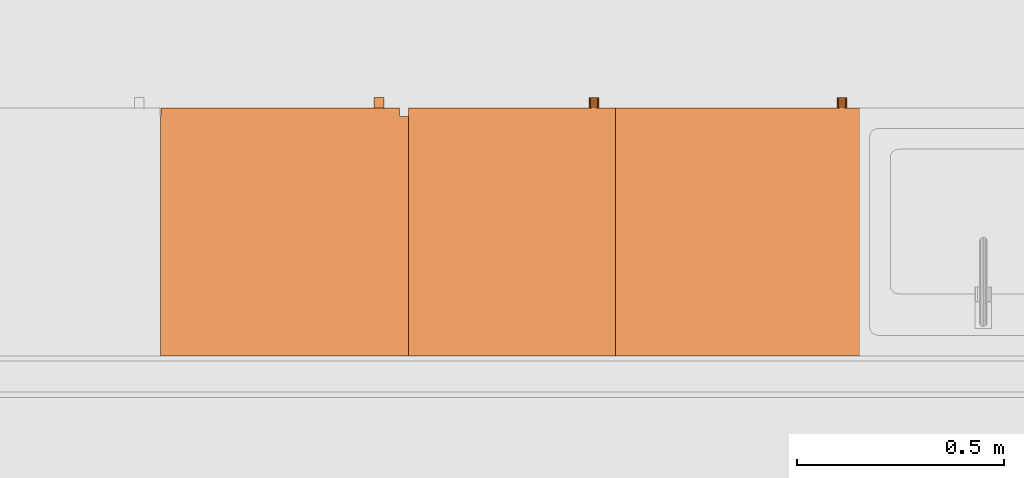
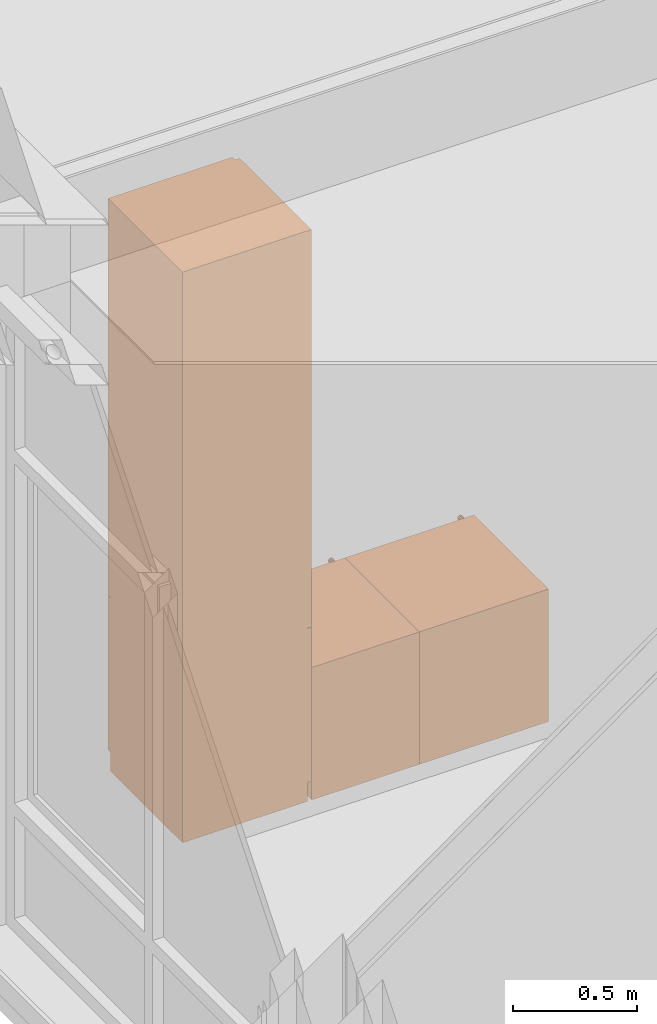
# One storey, part 101 of 167: 3 proxies.
"""IFC2X3 building model written with IfcOpenShell, lengths in millimetres."""

from ifc_helpers import new_model, entity, si_unit, converted_unit, derived_unit, money_unit, direction, frame, origin_with_axes, place, context, subcontext, project, spatial, faceted_brep, source, transform, mapped, type_object, type_shapes, element, save


model = new_model("IFC2X3")

# Units and contexts
model_context = context("Model", 3, precision=0.01, world=origin_with_axes(), true_north=direction((0.0, 1.0)))
plan_context = context("Plan", 3, precision=0.01, world=origin_with_axes(), true_north=direction((0.0, 1.0)))
body_context = subcontext(model_context, "Body", "Model", "MODEL_VIEW")
ifc_project = project(units=[si_unit("LENGTHUNIT", "METRE", prefix="MILLI"), si_unit("AREAUNIT", "SQUARE_METRE"), si_unit("VOLUMEUNIT", "CUBIC_METRE"), converted_unit("PLANEANGLEUNIT", "DEGREE", entity("IfcPlaneAngleMeasure", 0.0174532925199), si_unit("PLANEANGLEUNIT", "RADIAN"), dimensions=[0, 0, 0, 0, 0, 0, 0]), si_unit("SOLIDANGLEUNIT", "STERADIAN"), money_unit("EUR"), converted_unit("TIMEUNIT", "Year", entity("IfcTimeMeasure", 31556926.0), si_unit("TIMEUNIT", "SECOND"), dimensions=[0, 0, 1, 0, 0, 0, 0]), si_unit("MASSUNIT", "GRAM", prefix="KILO"), si_unit("THERMODYNAMICTEMPERATUREUNIT", "DEGREE_CELSIUS"), si_unit("LUMINOUSINTENSITYUNIT", "LUMEN"), si_unit("ENERGYUNIT", "JOULE", prefix="MEGA"), derived_unit("THERMALCONDUCTANCEUNIT", [(si_unit("POWERUNIT", "WATT"), 1), (si_unit("LENGTHUNIT", "METRE"), -1), (si_unit("THERMODYNAMICTEMPERATUREUNIT", "KELVIN"), -1)]), derived_unit("SPECIFICHEATCAPACITYUNIT", [(si_unit("ENERGYUNIT", "JOULE"), 1), (si_unit("MASSUNIT", "GRAM", prefix="KILO"), -1), (si_unit("THERMODYNAMICTEMPERATUREUNIT", "KELVIN"), -1)]), derived_unit("MASSDENSITYUNIT", [(si_unit("MASSUNIT", "GRAM", prefix="KILO"), 1), (si_unit("VOLUMEUNIT", "CUBIC_METRE"), -1)])], contexts=[model_context, plan_context])

# Site, building, storey
site_placement = place(None, origin_with_axes())
site = spatial("IfcSite", under=ifc_project, at=site_placement, Name="Site", CompositionType="ELEMENT")
building_placement = place(site_placement, origin_with_axes())
building = spatial("IfcBuilding", under=site, at=building_placement, Name="Naam gebouw", CompositionType="ELEMENT")
storey_placement = place(building_placement, origin_with_axes())
storey = spatial("IfcBuildingStorey", under=building, at=storey_placement, Name="Begane grond", CompositionType="ELEMENT", Elevation=0.0)

# Proxies
building_element_proxy_type_1 = type_object("IfcBuildingElementProxyType", Name="Kast basis 1D 24", PredefinedType="NOTDEFINED")
shared_shape_1 = source(origin_with_axes(), body_context, "Body", "Brep", [
    faceted_brep([(0.0, 20.0, 0.0), (0.0, 20.0, 90.0), (-500.0, 20.0, 90.0), (-500.0, 20.0, 0.0), (0.0, 600.0, 0.0), (0.0, 600.0, 90.0), (-500.0, 600.0, 90.0), (-500.0, 600.0, 0.0)], [[[0, 1, 2, 3]], [[4, 5, 1, 0]], [[1, 5, 6, 2]], [[3, 2, 6, 7]], [[0, 3, 7, 4]], [[7, 6, 5, 4]]]),
    faceted_brep([(0.0, 20.0, 580.0), (0.0, 20.0, 600.0), (-20.0, 20.0, 600.0), (-20.0, 20.0, 580.0), (0.0, 600.0, 580.0), (0.0, 600.0, 600.0), (-20.0, 600.0, 600.0), (-480.0, 600.0, 600.0), (-500.0, 600.0, 600.0), (-500.0, 20.0, 600.0), (-480.0, 20.0, 600.0), (-480.0, 20.0, 580.0), (-500.0, 20.0, 580.0), (-500.0, 600.0, 580.0), (-480.0, 600.0, 580.0), (-20.0, 600.0, 580.0)], [[[0, 1, 2, 3]], [[4, 5, 1, 0]], [[1, 5, 6, 7, 8, 9, 10, 2]], [[3, 2, 10, 11]], [[0, 3, 11, 12, 13, 14, 15, 4]], [[15, 6, 5, 4]], [[14, 7, 6, 15]], [[13, 8, 7, 14]], [[12, 9, 8, 13]], [[11, 10, 9, 12]]]),
    faceted_brep([(0.0, 20.0, 90.0), (0.0, 20.0, 110.0), (-20.0, 20.0, 110.0), (-20.0, 20.0, 90.0), (0.0, 600.0, 90.0), (0.0, 600.0, 110.0), (-20.0, 600.0, 110.0), (-480.0, 600.0, 110.0), (-500.0, 600.0, 110.0), (-500.0, 20.0, 110.0), (-480.0, 20.0, 110.0), (-480.0, 20.0, 90.0), (-500.0, 20.0, 90.0), (-500.0, 600.0, 90.0), (-480.0, 600.0, 90.0), (-20.0, 600.0, 90.0)], [[[0, 1, 2, 3]], [[4, 5, 1, 0]], [[1, 5, 6, 7, 8, 9, 10, 2]], [[3, 2, 10, 11]], [[0, 3, 11, 12, 13, 14, 15, 4]], [[15, 6, 5, 4]], [[14, 7, 6, 15]], [[13, 8, 7, 14]], [[12, 9, 8, 13]], [[11, 10, 9, 12]]]),
    faceted_brep([(0.0, 20.0, 110.0), (0.0, 20.0, 580.0), (-20.0, 20.0, 580.0), (-20.0, 20.0, 110.0), (0.0, 600.0, 110.0), (0.0, 600.0, 580.0), (-500.0, 600.0, 580.0), (-500.0, 20.0, 580.0), (-480.0, 20.0, 580.0), (-480.0, 580.0, 580.0), (-20.0, 580.0, 580.0), (-20.0, 580.0, 110.0), (-480.0, 580.0, 110.0), (-480.0, 20.0, 110.0), (-500.0, 20.0, 110.0), (-500.0, 600.0, 110.0)], [[[0, 1, 2, 3]], [[4, 5, 1, 0]], [[1, 5, 6, 7, 8, 9, 10, 2]], [[3, 2, 10, 11]], [[0, 3, 11, 12, 13, 14, 15, 4]], [[15, 6, 5, 4]], [[14, 7, 6, 15]], [[13, 8, 7, 14]], [[12, 9, 8, 13]], [[11, 10, 9, 12]]]),
    faceted_brep([(-480.0, 20.0, 325.0), (-480.0, 20.0, 345.0), (-480.0, 580.0, 345.0), (-480.0, 580.0, 325.0), (-20.0, 20.0, 325.0), (-20.0, 20.0, 345.0), (-20.0, 580.0, 345.0), (-20.0, 580.0, 325.0)], [[[0, 1, 2, 3]], [[4, 5, 1, 0]], [[1, 5, 6, 2]], [[3, 2, 6, 7]], [[0, 3, 7, 4]], [[7, 6, 5, 4]]]),
    faceted_brep([(0.0, 0.0, 600.0), (0.0, 0.0, 650.0), (-500.0, 0.0, 650.0), (-500.0, 0.0, 600.0), (0.0, 600.0, 600.0), (0.0, 600.0, 650.0), (-500.0, 600.0, 650.0), (-500.0, 600.0, 600.0)], [[[0, 1, 2, 3]], [[4, 5, 1, 0]], [[1, 5, 6, 2]], [[3, 2, 6, 7]], [[0, 3, 7, 4]], [[7, 6, 5, 4]]]),
    faceted_brep([(-1.5, 20.0, 91.5), (-1.5, 0.0, 91.5), (-498.5, 0.0, 91.5), (-498.5, 20.0, 91.5), (-1.5, 20.0, 598.5), (-1.5, 0.0, 598.5), (-498.5, 0.0, 598.5), (-498.5, 20.0, 598.5)], [[[0, 1, 2, 3]], [[4, 5, 1, 0]], [[1, 5, 6, 2]], [[3, 2, 6, 7]], [[0, 3, 7, 4]], [[7, 6, 5, 4]]]),
    faceted_brep([(-459.58655439, 0.0, 636.907798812), (-460.5, 0.0, 641.5), (-459.58655439, 0.0, 646.092201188), (-456.985281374, 0.0, 649.985281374), (-453.092201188, 0.0, 652.58655439), (-448.5, 0.0, 653.5), (-443.907798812, 0.0, 652.58655439), (-440.014718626, 0.0, 649.985281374), (-437.41344561, 0.0, 646.092201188), (-436.5, 0.0, 641.5), (-437.41344561, 0.0, 636.907798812), (-440.014718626, 0.0, 633.014718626), (-443.907798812, 0.0, 630.41344561), (-448.5, 0.0, 629.5), (-453.092201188, 0.0, 630.41344561), (-456.985281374, 0.0, 633.014718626), (-459.58655439, -25.0, 636.907798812), (-460.5, -25.0, 641.5), (-459.58655439, -25.0, 646.092201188), (-456.985281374, -25.0, 649.985281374), (-453.092201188, -25.0, 652.58655439), (-448.5, -25.0, 653.5), (-443.907798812, -25.0, 652.58655439), (-440.014718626, -25.0, 649.985281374), (-437.41344561, -25.0, 646.092201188), (-436.5, -25.0, 641.5), (-437.41344561, -25.0, 636.907798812), (-440.014718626, -25.0, 633.014718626), (-443.907798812, -25.0, 630.41344561), (-448.5, -25.0, 629.5), (-453.092201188, -25.0, 630.41344561), (-456.985281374, -25.0, 633.014718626)], [[[0, 1, 2, 3, 4, 5, 6, 7, 8, 9, 10, 11, 12, 13, 14, 15]], [[0, 16, 17, 1]], [[1, 17, 18, 2]], [[2, 18, 19, 3]], [[3, 19, 20, 4]], [[4, 20, 21, 5]], [[5, 21, 22, 6]], [[6, 22, 23, 7]], [[7, 23, 24, 8]], [[8, 24, 25, 9]], [[9, 25, 26, 10]], [[10, 26, 27, 11]], [[11, 27, 28, 12]], [[12, 28, 29, 13]], [[13, 29, 30, 14]], [[14, 30, 31, 15]], [[15, 31, 16, 0]], [[16, 31, 30, 29, 28, 27, 26, 25, 24, 23, 22, 21, 20, 19, 18, 17]]]),
])
proxy_1_placement = place(storey_placement, frame((1414.0, 42850.0, 0.0), z_axis=(0.0, 0.0, 1.0), x_axis=(-1.0, 0.0, 0.0)))
element("IfcBuildingElementProxy", 1, at=proxy_1_placement, inside=storey, type_object=building_element_proxy_type_1, Name="__Object-x", context=body_context, shape_type="MappedRepresentation", body=[
    mapped(shared_shape_1, transform((0.0, 0.0, 0.0))),
])
building_element_proxy_type_2 = type_object("IfcBuildingElementProxyType", Name="Kast hoog 1D 24", PredefinedType="NOTDEFINED")
shared_shape_2 = source(origin_with_axes(), body_context, "Body", "Brep", [
    faceted_brep([(-20.0, 20.0, 838.5), (-20.0, 20.0, 858.5), (-560.0, 20.0, 858.5), (-560.0, 20.0, 838.5), (-20.0, 580.0, 838.5), (-20.0, 580.0, 858.5), (-560.0, 580.0, 858.5), (-560.0, 580.0, 838.5)], [[[0, 1, 2, 3]], [[4, 5, 1, 0]], [[1, 5, 6, 2]], [[3, 2, 6, 7]], [[0, 3, 7, 4]], [[7, 6, 5, 4]]]),
    faceted_brep([(0.0, 20.0, 0.0), (0.0, 20.0, 90.0), (-580.0, 20.0, 90.0), (-580.0, 20.0, 0.0), (0.0, 600.0, 0.0), (0.0, 600.0, 90.0), (-580.0, 600.0, 90.0), (-580.0, 600.0, 0.0)], [[[0, 1, 2, 3]], [[4, 5, 1, 0]], [[1, 5, 6, 2]], [[3, 2, 6, 7]], [[0, 3, 7, 4]], [[7, 6, 5, 4]]]),
    faceted_brep([(0.0, 20.0, 2780.0), (0.0, 20.0, 2800.0), (-20.0, 20.0, 2800.0), (-20.0, 20.0, 2780.0), (0.0, 600.0, 2780.0), (0.0, 600.0, 2800.0), (-20.0, 600.0, 2800.0), (-560.0, 600.0, 2800.0), (-580.0, 600.0, 2800.0), (-580.0, 20.0, 2800.0), (-560.0, 20.0, 2800.0), (-560.0, 20.0, 2780.0), (-580.0, 20.0, 2780.0), (-580.0, 600.0, 2780.0), (-560.0, 600.0, 2780.0), (-20.0, 600.0, 2780.0)], [[[0, 1, 2, 3]], [[4, 5, 1, 0]], [[1, 5, 6, 7, 8, 9, 10, 2]], [[3, 2, 10, 11]], [[0, 3, 11, 12, 13, 14, 15, 4]], [[15, 6, 5, 4]], [[14, 7, 6, 15]], [[13, 8, 7, 14]], [[12, 9, 8, 13]], [[11, 10, 9, 12]]]),
    faceted_brep([(0.0, 20.0, 90.0), (0.0, 20.0, 110.0), (-20.0, 20.0, 110.0), (-20.0, 20.0, 90.0), (0.0, 600.0, 90.0), (0.0, 600.0, 110.0), (-20.0, 600.0, 110.0), (-560.0, 600.0, 110.0), (-580.0, 600.0, 110.0), (-580.0, 20.0, 110.0), (-560.0, 20.0, 110.0), (-560.0, 20.0, 90.0), (-580.0, 20.0, 90.0), (-580.0, 600.0, 90.0), (-560.0, 600.0, 90.0), (-20.0, 600.0, 90.0)], [[[0, 1, 2, 3]], [[4, 5, 1, 0]], [[1, 5, 6, 7, 8, 9, 10, 2]], [[3, 2, 10, 11]], [[0, 3, 11, 12, 13, 14, 15, 4]], [[15, 6, 5, 4]], [[14, 7, 6, 15]], [[13, 8, 7, 14]], [[12, 9, 8, 13]], [[11, 10, 9, 12]]]),
    faceted_brep([(0.0, 20.0, 110.0), (0.0, 20.0, 2780.0), (-20.0, 20.0, 2780.0), (-20.0, 20.0, 110.0), (0.0, 600.0, 110.0), (0.0, 600.0, 2780.0), (-580.0, 600.0, 2780.0), (-580.0, 20.0, 2780.0), (-560.0, 20.0, 2780.0), (-560.0, 580.0, 2780.0), (-20.0, 580.0, 2780.0), (-20.0, 580.0, 110.0), (-560.0, 580.0, 110.0), (-560.0, 20.0, 110.0), (-580.0, 20.0, 110.0), (-580.0, 600.0, 110.0)], [[[0, 1, 2, 3]], [[4, 5, 1, 0]], [[1, 5, 6, 7, 8, 9, 10, 2]], [[3, 2, 10, 11]], [[0, 3, 11, 12, 13, 14, 15, 4]], [[15, 6, 5, 4]], [[14, 7, 6, 15]], [[13, 8, 7, 14]], [[12, 9, 8, 13]], [[11, 10, 9, 12]]]),
    faceted_brep([(-560.0, 20.0, 329.5), (-560.0, 20.0, 349.5), (-560.0, 580.0, 349.5), (-560.0, 580.0, 329.5), (-20.0, 20.0, 329.5), (-20.0, 20.0, 349.5), (-20.0, 580.0, 349.5), (-20.0, 580.0, 329.5)], [[[0, 1, 2, 3]], [[4, 5, 1, 0]], [[1, 5, 6, 2]], [[3, 2, 6, 7]], [[0, 3, 7, 4]], [[7, 6, 5, 4]]]),
    faceted_brep([(-560.0, 20.0, 589.0), (-560.0, 20.0, 609.0), (-560.0, 580.0, 609.0), (-560.0, 580.0, 589.0), (-20.0, 20.0, 589.0), (-20.0, 20.0, 609.0), (-20.0, 580.0, 609.0), (-20.0, 580.0, 589.0)], [[[0, 1, 2, 3]], [[4, 5, 1, 0]], [[1, 5, 6, 2]], [[3, 2, 6, 7]], [[0, 3, 7, 4]], [[7, 6, 5, 4]]]),
    faceted_brep([(-1.5, 20.0, 91.5), (-1.5, 0.0, 91.5), (-578.5, 0.0, 91.5), (-578.5, 20.0, 91.5), (-1.5, 20.0, 847.0), (-1.5, 0.0, 847.0), (-578.5, 0.0, 847.0), (-578.5, 20.0, 847.0)], [[[0, 1, 2, 3]], [[4, 5, 1, 0]], [[1, 5, 6, 2]], [[3, 2, 6, 7]], [[0, 3, 7, 4]], [[7, 6, 5, 4]]]),
    faceted_brep([(-540.091109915, 0.0, 838.394171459), (-540.5, 0.0, 841.5), (-540.091109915, 0.0, 844.605828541), (-538.892304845, 0.0, 847.5), (-536.985281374, 0.0, 849.985281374), (-534.5, 0.0, 851.892304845), (-531.605828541, 0.0, 853.091109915), (-528.5, 0.0, 853.5), (-525.394171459, 0.0, 853.091109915), (-522.5, 0.0, 851.892304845), (-520.014718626, 0.0, 849.985281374), (-518.107695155, 0.0, 847.5), (-516.908890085, 0.0, 844.605828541), (-516.5, 0.0, 841.5), (-516.908890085, 0.0, 838.394171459), (-518.107695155, 0.0, 835.5), (-520.014718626, 0.0, 833.014718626), (-522.5, 0.0, 831.107695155), (-525.394171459, 0.0, 829.908890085), (-528.5, 0.0, 829.5), (-531.605828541, 0.0, 829.908890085), (-534.5, 0.0, 831.107695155), (-536.985281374, 0.0, 833.014718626), (-538.892304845, 0.0, 835.5), (-540.091109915, -25.0, 838.394171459), (-540.5, -25.0, 841.5), (-540.091109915, -25.0, 844.605828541), (-538.892304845, -25.0, 847.5), (-536.985281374, -25.0, 849.985281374), (-534.5, -25.0, 851.892304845), (-531.605828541, -25.0, 853.091109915), (-528.5, -25.0, 853.5), (-525.394171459, -25.0, 853.091109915), (-522.5, -25.0, 851.892304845), (-520.014718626, -25.0, 849.985281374), (-518.107695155, -25.0, 847.5), (-516.908890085, -25.0, 844.605828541), (-516.5, -25.0, 841.5), (-516.908890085, -25.0, 838.394171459), (-518.107695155, -25.0, 835.5), (-520.014718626, -25.0, 833.014718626), (-522.5, -25.0, 831.107695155), (-525.394171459, -25.0, 829.908890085), (-528.5, -25.0, 829.5), (-531.605828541, -25.0, 829.908890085), (-534.5, -25.0, 831.107695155), (-536.985281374, -25.0, 833.014718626), (-538.892304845, -25.0, 835.5)], [[[0, 1, 2, 3, 4, 5, 6, 7, 8, 9, 10, 11, 12, 13, 14, 15, 16, 17, 18, 19, 20, 21, 22, 23]], [[0, 24, 25, 1]], [[1, 25, 26, 2]], [[2, 26, 27, 3]], [[3, 27, 28, 4]], [[4, 28, 29, 5]], [[5, 29, 30, 6]], [[6, 30, 31, 7]], [[7, 31, 32, 8]], [[8, 32, 33, 9]], [[9, 33, 34, 10]], [[10, 34, 35, 11]], [[11, 35, 36, 12]], [[12, 36, 37, 13]], [[13, 37, 38, 14]], [[14, 38, 39, 15]], [[15, 39, 40, 16]], [[16, 40, 41, 17]], [[17, 41, 42, 18]], [[18, 42, 43, 19]], [[19, 43, 44, 20]], [[20, 44, 45, 21]], [[21, 45, 46, 22]], [[22, 46, 47, 23]], [[23, 47, 24, 0]], [[24, 47, 46, 45, 44, 43, 42, 41, 40, 39, 38, 37, 36, 35, 34, 33, 32, 31, 30, 29, 28, 27, 26, 25]]]),
    faceted_brep([(-1.5, 20.0, 850.0), (-1.5, 0.0, 850.0), (-578.5, 0.0, 850.0), (-578.5, 20.0, 850.0), (-1.5, 20.0, 2798.5), (-1.5, 0.0, 2798.5), (-578.5, 0.0, 2798.5), (-578.5, 20.0, 2798.5)], [[[0, 1, 2, 3]], [[4, 5, 1, 0]], [[1, 5, 6, 2]], [[3, 2, 6, 7]], [[0, 3, 7, 4]], [[7, 6, 5, 4]]]),
    faceted_brep([(-540.091109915, 0.0, 896.894171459), (-540.5, 0.0, 900.0), (-540.091109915, 0.0, 903.105828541), (-538.892304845, 0.0, 906.0), (-536.985281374, 0.0, 908.485281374), (-534.5, 0.0, 910.392304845), (-531.605828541, 0.0, 911.591109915), (-528.5, 0.0, 912.0), (-525.394171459, 0.0, 911.591109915), (-522.5, 0.0, 910.392304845), (-520.014718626, 0.0, 908.485281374), (-518.107695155, 0.0, 906.0), (-516.908890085, 0.0, 903.105828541), (-516.5, 0.0, 900.0), (-516.908890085, 0.0, 896.894171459), (-518.107695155, 0.0, 894.0), (-520.014718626, 0.0, 891.514718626), (-522.5, 0.0, 889.607695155), (-525.394171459, 0.0, 888.408890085), (-528.5, 0.0, 888.0), (-531.605828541, 0.0, 888.408890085), (-534.5, 0.0, 889.607695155), (-536.985281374, 0.0, 891.514718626), (-538.892304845, 0.0, 894.0), (-540.091109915, -25.0, 896.894171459), (-540.5, -25.0, 900.0), (-540.091109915, -25.0, 903.105828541), (-538.892304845, -25.0, 906.0), (-536.985281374, -25.0, 908.485281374), (-534.5, -25.0, 910.392304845), (-531.605828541, -25.0, 911.591109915), (-528.5, -25.0, 912.0), (-525.394171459, -25.0, 911.591109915), (-522.5, -25.0, 910.392304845), (-520.014718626, -25.0, 908.485281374), (-518.107695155, -25.0, 906.0), (-516.908890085, -25.0, 903.105828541), (-516.5, -25.0, 900.0), (-516.908890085, -25.0, 896.894171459), (-518.107695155, -25.0, 894.0), (-520.014718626, -25.0, 891.514718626), (-522.5, -25.0, 889.607695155), (-525.394171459, -25.0, 888.408890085), (-528.5, -25.0, 888.0), (-531.605828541, -25.0, 888.408890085), (-534.5, -25.0, 889.607695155), (-536.985281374, -25.0, 891.514718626), (-538.892304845, -25.0, 894.0)], [[[0, 1, 2, 3, 4, 5, 6, 7, 8, 9, 10, 11, 12, 13, 14, 15, 16, 17, 18, 19, 20, 21, 22, 23]], [[0, 24, 25, 1]], [[1, 25, 26, 2]], [[2, 26, 27, 3]], [[3, 27, 28, 4]], [[4, 28, 29, 5]], [[5, 29, 30, 6]], [[6, 30, 31, 7]], [[7, 31, 32, 8]], [[8, 32, 33, 9]], [[9, 33, 34, 10]], [[10, 34, 35, 11]], [[11, 35, 36, 12]], [[12, 36, 37, 13]], [[13, 37, 38, 14]], [[14, 38, 39, 15]], [[15, 39, 40, 16]], [[16, 40, 41, 17]], [[17, 41, 42, 18]], [[18, 42, 43, 19]], [[19, 43, 44, 20]], [[20, 44, 45, 21]], [[21, 45, 46, 22]], [[22, 46, 47, 23]], [[23, 47, 24, 0]], [[24, 47, 46, 45, 44, 43, 42, 41, 40, 39, 38, 37, 36, 35, 34, 33, 32, 31, 30, 29, 28, 27, 26, 25]]]),
    faceted_brep([(-580.0, 21.5, 91.5), (-600.0, 21.5, 91.5), (-600.0, 598.5, 91.5), (-580.0, 598.5, 91.5), (-580.0, 21.5, 847.0), (-600.0, 21.5, 847.0), (-600.0, 598.5, 847.0), (-580.0, 598.5, 847.0)], [[[0, 1, 2, 3]], [[4, 5, 1, 0]], [[1, 5, 6, 2]], [[3, 2, 6, 7]], [[0, 3, 7, 4]], [[7, 6, 5, 4]]]),
    faceted_brep([(-580.0, 21.5, 850.0), (-600.0, 21.5, 850.0), (-600.0, 598.5, 850.0), (-580.0, 598.5, 850.0), (-580.0, 21.5, 2798.5), (-600.0, 21.5, 2798.5), (-600.0, 598.5, 2798.5), (-580.0, 598.5, 2798.5)], [[[0, 1, 2, 3]], [[4, 5, 1, 0]], [[1, 5, 6, 2]], [[3, 2, 6, 7]], [[0, 3, 7, 4]], [[7, 6, 5, 4]]]),
])
type_shapes(building_element_proxy_type_2, [shared_shape_2])
proxy_2_placement = place(storey_placement, frame((814.0, 42850.0, 0.0), z_axis=(0.0, 0.0, 1.0), x_axis=(-1.0, 0.0, 0.0)))
element("IfcBuildingElementProxy", 2, at=proxy_2_placement, inside=storey, type_object=building_element_proxy_type_2, Name="__Object-x", context=body_context, shape_type="MappedRepresentation", body=[
    mapped(shared_shape_2, transform((0.0, 0.0, 0.0))),
])
shared_shape_3 = source(origin_with_axes(), body_context, "Body", "Brep", [
    faceted_brep([(0.0, 20.0, 0.0), (0.0, 20.0, 90.0), (-600.0, 20.0, 90.0), (-600.0, 20.0, 0.0), (0.0, 600.0, 0.0), (0.0, 600.0, 90.0), (-600.0, 600.0, 90.0), (-600.0, 600.0, 0.0)], [[[0, 1, 2, 3]], [[4, 5, 1, 0]], [[1, 5, 6, 2]], [[3, 2, 6, 7]], [[0, 3, 7, 4]], [[7, 6, 5, 4]]]),
    faceted_brep([(0.0, 20.0, 580.0), (0.0, 20.0, 600.0), (-20.0, 20.0, 600.0), (-20.0, 20.0, 580.0), (0.0, 600.0, 580.0), (0.0, 600.0, 600.0), (-20.0, 600.0, 600.0), (-580.0, 600.0, 600.0), (-600.0, 600.0, 600.0), (-600.0, 20.0, 600.0), (-580.0, 20.0, 600.0), (-580.0, 20.0, 580.0), (-600.0, 20.0, 580.0), (-600.0, 600.0, 580.0), (-580.0, 600.0, 580.0), (-20.0, 600.0, 580.0)], [[[0, 1, 2, 3]], [[4, 5, 1, 0]], [[1, 5, 6, 7, 8, 9, 10, 2]], [[3, 2, 10, 11]], [[0, 3, 11, 12, 13, 14, 15, 4]], [[15, 6, 5, 4]], [[14, 7, 6, 15]], [[13, 8, 7, 14]], [[12, 9, 8, 13]], [[11, 10, 9, 12]]]),
    faceted_brep([(0.0, 20.0, 90.0), (0.0, 20.0, 110.0), (-20.0, 20.0, 110.0), (-20.0, 20.0, 90.0), (0.0, 600.0, 90.0), (0.0, 600.0, 110.0), (-20.0, 600.0, 110.0), (-580.0, 600.0, 110.0), (-600.0, 600.0, 110.0), (-600.0, 20.0, 110.0), (-580.0, 20.0, 110.0), (-580.0, 20.0, 90.0), (-600.0, 20.0, 90.0), (-600.0, 600.0, 90.0), (-580.0, 600.0, 90.0), (-20.0, 600.0, 90.0)], [[[0, 1, 2, 3]], [[4, 5, 1, 0]], [[1, 5, 6, 7, 8, 9, 10, 2]], [[3, 2, 10, 11]], [[0, 3, 11, 12, 13, 14, 15, 4]], [[15, 6, 5, 4]], [[14, 7, 6, 15]], [[13, 8, 7, 14]], [[12, 9, 8, 13]], [[11, 10, 9, 12]]]),
    faceted_brep([(0.0, 20.0, 110.0), (0.0, 20.0, 580.0), (-20.0, 20.0, 580.0), (-20.0, 20.0, 110.0), (0.0, 600.0, 110.0), (0.0, 600.0, 580.0), (-600.0, 600.0, 580.0), (-600.0, 20.0, 580.0), (-580.0, 20.0, 580.0), (-580.0, 580.0, 580.0), (-20.0, 580.0, 580.0), (-20.0, 580.0, 110.0), (-580.0, 580.0, 110.0), (-580.0, 20.0, 110.0), (-600.0, 20.0, 110.0), (-600.0, 600.0, 110.0)], [[[0, 1, 2, 3]], [[4, 5, 1, 0]], [[1, 5, 6, 7, 8, 9, 10, 2]], [[3, 2, 10, 11]], [[0, 3, 11, 12, 13, 14, 15, 4]], [[15, 6, 5, 4]], [[14, 7, 6, 15]], [[13, 8, 7, 14]], [[12, 9, 8, 13]], [[11, 10, 9, 12]]]),
    faceted_brep([(-580.0, 20.0, 325.0), (-580.0, 20.0, 345.0), (-580.0, 580.0, 345.0), (-580.0, 580.0, 325.0), (-20.0, 20.0, 325.0), (-20.0, 20.0, 345.0), (-20.0, 580.0, 345.0), (-20.0, 580.0, 325.0)], [[[0, 1, 2, 3]], [[4, 5, 1, 0]], [[1, 5, 6, 2]], [[3, 2, 6, 7]], [[0, 3, 7, 4]], [[7, 6, 5, 4]]]),
    faceted_brep([(0.0, 0.0, 600.0), (0.0, 0.0, 650.0), (-600.0, 0.0, 650.0), (-600.0, 0.0, 600.0), (0.0, 600.0, 600.0), (0.0, 600.0, 650.0), (-600.0, 600.0, 650.0), (-600.0, 600.0, 600.0)], [[[0, 1, 2, 3]], [[4, 5, 1, 0]], [[1, 5, 6, 2]], [[3, 2, 6, 7]], [[0, 3, 7, 4]], [[7, 6, 5, 4]]]),
    faceted_brep([(-1.5, 20.0, 91.5), (-1.5, 0.0, 91.5), (-598.5, 0.0, 91.5), (-598.5, 20.0, 91.5), (-1.5, 20.0, 598.5), (-1.5, 0.0, 598.5), (-598.5, 0.0, 598.5), (-598.5, 20.0, 598.5)], [[[0, 1, 2, 3]], [[4, 5, 1, 0]], [[1, 5, 6, 2]], [[3, 2, 6, 7]], [[0, 3, 7, 4]], [[7, 6, 5, 4]]]),
    faceted_brep([(-559.58655439, 0.0, 636.907798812), (-560.5, 0.0, 641.5), (-559.58655439, 0.0, 646.092201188), (-556.985281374, 0.0, 649.985281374), (-553.092201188, 0.0, 652.58655439), (-548.5, 0.0, 653.5), (-543.907798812, 0.0, 652.58655439), (-540.014718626, 0.0, 649.985281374), (-537.41344561, 0.0, 646.092201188), (-536.5, 0.0, 641.5), (-537.41344561, 0.0, 636.907798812), (-540.014718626, 0.0, 633.014718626), (-543.907798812, 0.0, 630.41344561), (-548.5, 0.0, 629.5), (-553.092201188, 0.0, 630.41344561), (-556.985281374, 0.0, 633.014718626), (-559.58655439, -25.0, 636.907798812), (-560.5, -25.0, 641.5), (-559.58655439, -25.0, 646.092201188), (-556.985281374, -25.0, 649.985281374), (-553.092201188, -25.0, 652.58655439), (-548.5, -25.0, 653.5), (-543.907798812, -25.0, 652.58655439), (-540.014718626, -25.0, 649.985281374), (-537.41344561, -25.0, 646.092201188), (-536.5, -25.0, 641.5), (-537.41344561, -25.0, 636.907798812), (-540.014718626, -25.0, 633.014718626), (-543.907798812, -25.0, 630.41344561), (-548.5, -25.0, 629.5), (-553.092201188, -25.0, 630.41344561), (-556.985281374, -25.0, 633.014718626)], [[[0, 1, 2, 3, 4, 5, 6, 7, 8, 9, 10, 11, 12, 13, 14, 15]], [[0, 16, 17, 1]], [[1, 17, 18, 2]], [[2, 18, 19, 3]], [[3, 19, 20, 4]], [[4, 20, 21, 5]], [[5, 21, 22, 6]], [[6, 22, 23, 7]], [[7, 23, 24, 8]], [[8, 24, 25, 9]], [[9, 25, 26, 10]], [[10, 26, 27, 11]], [[11, 27, 28, 12]], [[12, 28, 29, 13]], [[13, 29, 30, 14]], [[14, 30, 31, 15]], [[15, 31, 16, 0]], [[16, 31, 30, 29, 28, 27, 26, 25, 24, 23, 22, 21, 20, 19, 18, 17]]]),
])
type_shapes(building_element_proxy_type_1, [shared_shape_1, shared_shape_3])
proxy_3_placement = place(storey_placement, frame((1914.0, 42850.0, 0.0), z_axis=(0.0, 0.0, 1.0), x_axis=(-1.0, 0.0, 0.0)))
element("IfcBuildingElementProxy", 3, at=proxy_3_placement, inside=storey, type_object=building_element_proxy_type_1, Name="__Object-x", context=body_context, shape_type="MappedRepresentation", body=[
    mapped(shared_shape_3, transform((0.0, 0.0, 0.0))),
])

save(model, "model.ifc")
